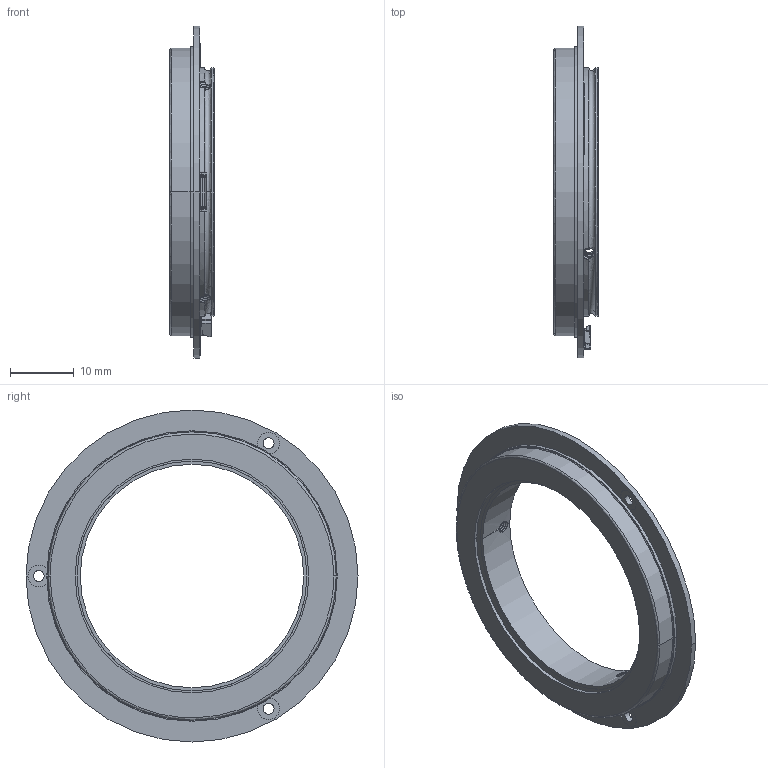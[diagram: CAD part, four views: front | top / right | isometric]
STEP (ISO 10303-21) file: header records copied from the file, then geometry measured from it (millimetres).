
FILE_DESCRIPTION (( 'STEP AP214' ), '1' );
FILE_NAME ('MBS-35-52¸üÐÂ.STEP', '2024-07-16T03:19:00', ( '' ), ( '' ), 'SwSTEP 2.0', 'SolidWorks 2016', '' );
FILE_SCHEMA (( 'AUTOMOTIVE_DESIGN' ));
Length unit declared in the file: millimetre
Products named in the file (1): MBS-35-52載陔
Bounding box: 7.01 x 52 x 52 mm (x, y, z)
Volume: 2649.5 mm3; surface area: 7331.8 mm2
Topology: 6 solids, 32 shells, 798 faces, 2056 edges, 1354 vertices
Faces by surface type: plane 559, bspline 161, cylinder 69, cone 9
Entity records: 71252 total; most frequent: CARTESIAN_POINT 49896, ORIENTED_EDGE 4104, DIRECTION 3109, EDGE_CURVE 2052, LINE 1527, VECTOR 1527, VERTEX_POINT 1354, EDGE_LOOP 862
